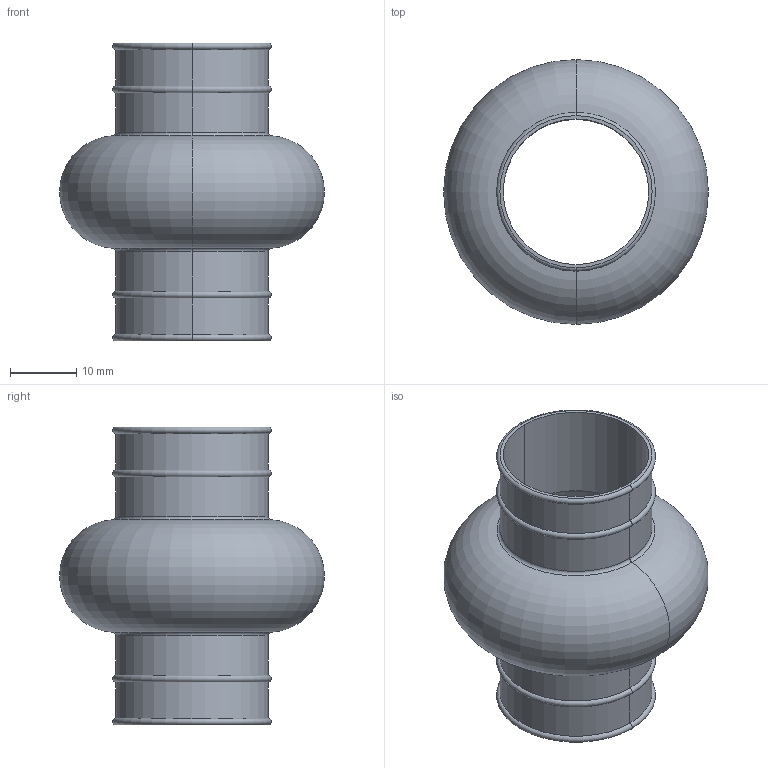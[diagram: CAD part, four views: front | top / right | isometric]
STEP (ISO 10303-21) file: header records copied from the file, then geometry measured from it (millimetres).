
FILE_DESCRIPTION (( 'STEP AP203' ), '1' );
FILE_NAME ('65280.W0022.step', '2018-06-20T18:11:37', ( '' ), ( '' ), 'SwSTEP 2.0', 'SolidWorks 2017', '' );
FILE_SCHEMA (( 'CONFIG_CONTROL_DESIGN' ));
Length unit declared in the file: millimetre
Products named in the file (1): 65280.W0022
Bounding box: 40 x 40 x 45 mm (x, y, z)
Volume: 2512.2 mm3; surface area: 9777.5 mm2
Topology: 1 solids, 1 shells, 30 faces, 60 edges, 32 vertices
Faces by surface type: torus 16, cylinder 12, plane 2
Entity records: 861 total; most frequent: DIRECTION 170, CARTESIAN_POINT 123, ORIENTED_EDGE 120, AXIS2_PLACEMENT_3D 79, EDGE_CURVE 60, CIRCLE 48, EDGE_LOOP 32, VERTEX_POINT 32
